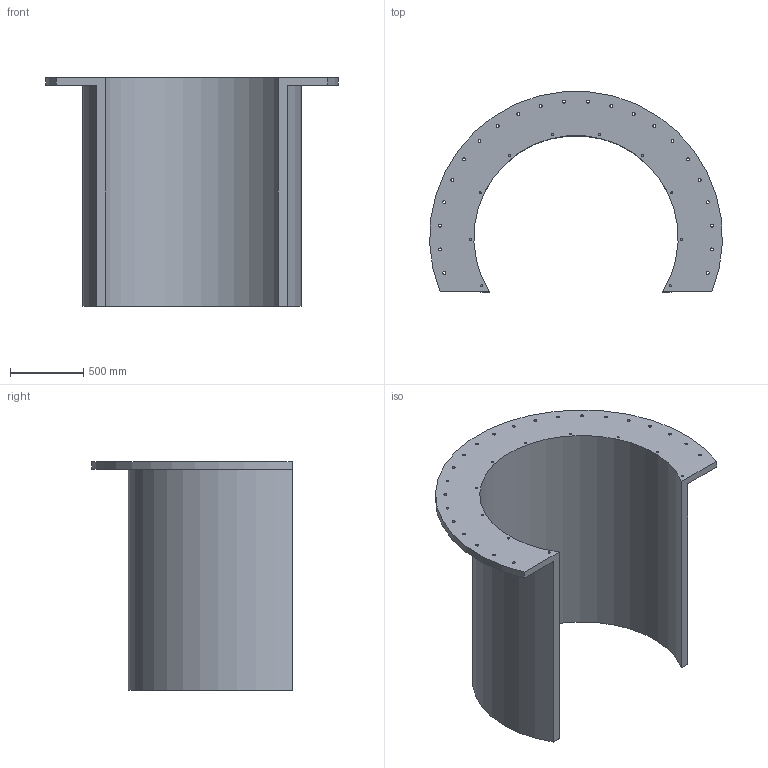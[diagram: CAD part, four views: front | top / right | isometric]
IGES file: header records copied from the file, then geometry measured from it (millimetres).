
Start section:  PTC IGES file: 03.igs
Global section: file name: 03.igs; native system: Pro/ENGINEER by Parametric Technology Corporation; preprocessor: 1999260; author: oshatz; organization: Unknown; date: 000922.101854; units: millimetre
Bounding box: 1996.31 x 1366.41 x 1558 mm (x, y, z)
Surface area: 11889708 mm2 (no closed solid volume)
Topology: 0 solids, 0 shells, 82 faces, 420 edges, 420 vertices
Faces by surface type: revolution 67, bspline 15
